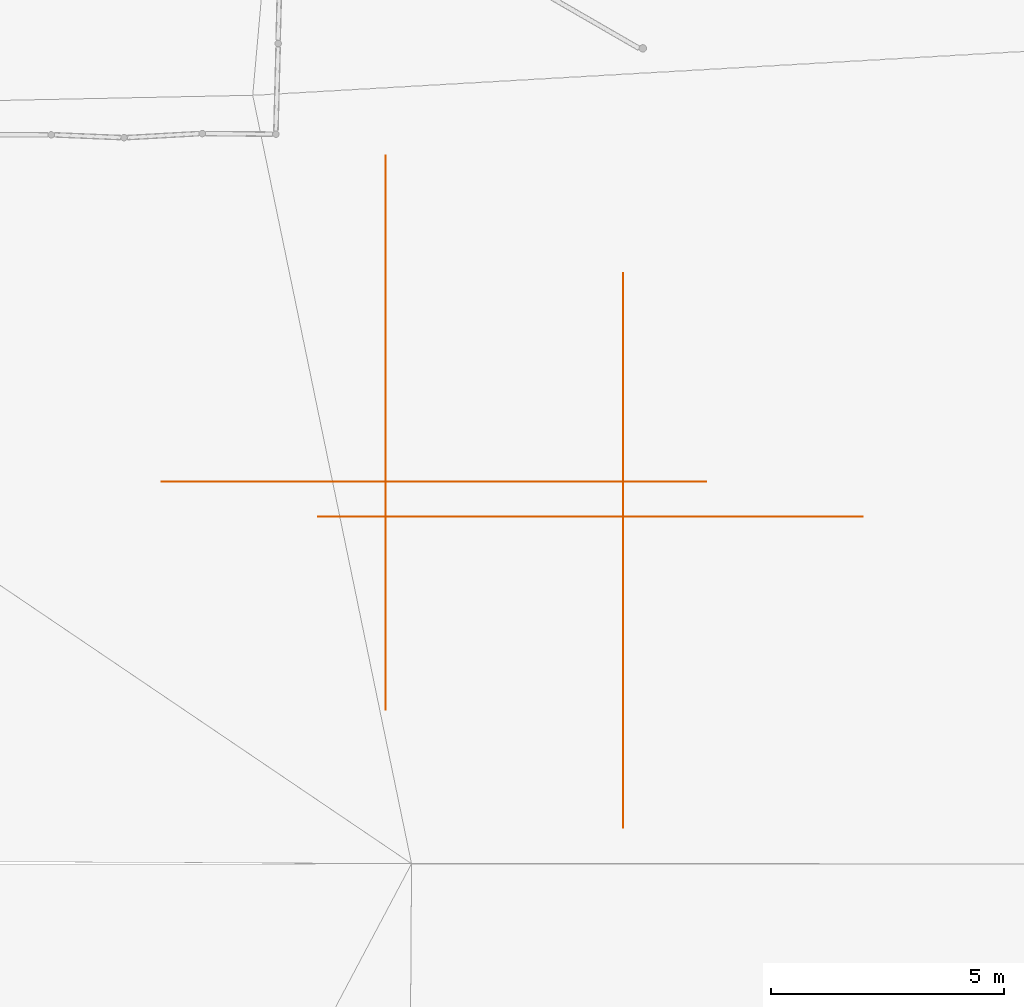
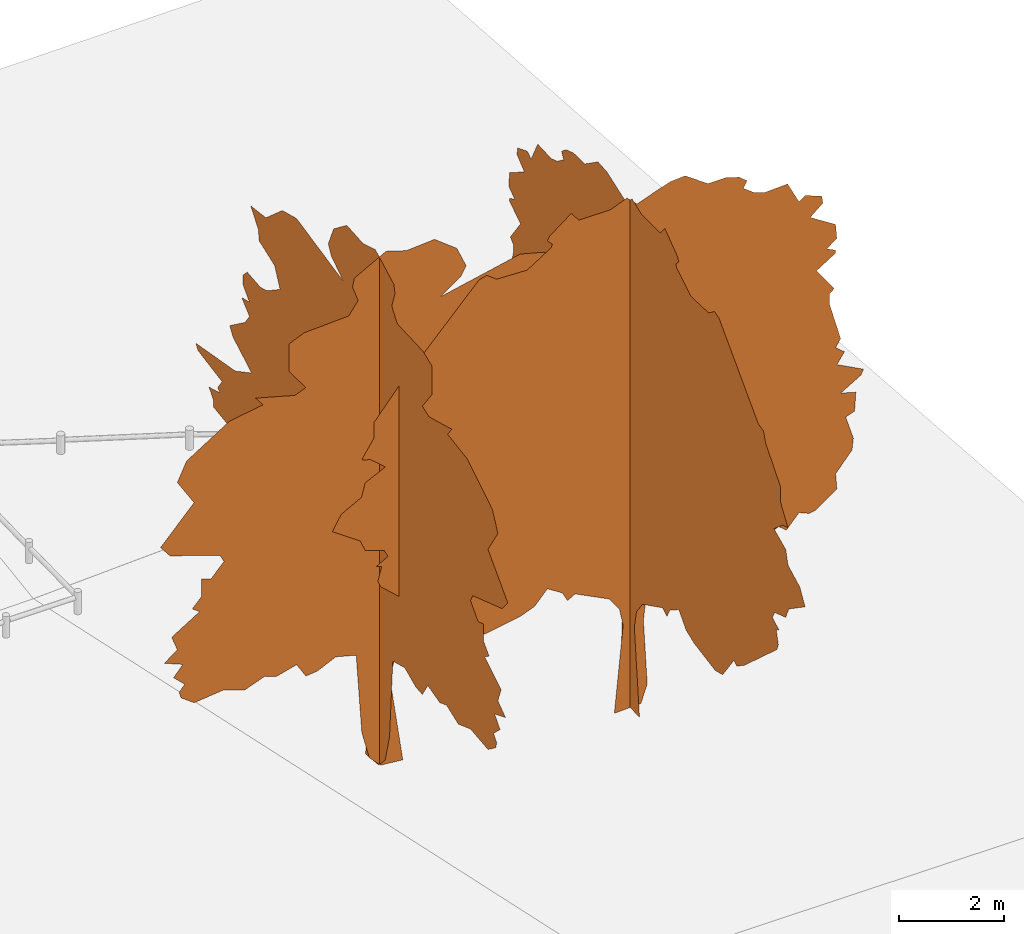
# One storey, part 130 of 133: 2 proxies.
"""IFC2X3 building model written with IfcOpenShell, lengths in centimetres."""

import ifcopenshell
import ifcopenshell.guid

model = None  # the IFC model being written
_history = None  # IfcOwnerHistory: only IFC2X3 demands one
_inside = {}  # id of a spatial element -> (the spatial element, [elements in it])
_under = {}  # id of a project, library or spatial element -> (it, [spatial elements below it])
_declared = {}  # id of a project -> (the project, [libraries it declares])
_typed = {}  # id of a type object -> (the type object, [elements of that type])
_made_of = {}  # id of a material, layer set ... -> (it, [elements and type objects made of it])


def new_model(schema):
    """Start an empty IFC model of exactly this schema.

    Asked for "IFC4X3", IfcOpenShell would pick the latest addendum, in which some entities
    have other attributes; the version numbers below select the first issue.
    IFC2X3 requires an IfcOwnerHistory on every rooted entity: one is made here for all.
    """
    global model, _history
    if schema == "IFC4X3":
        model = ifcopenshell.file(schema_version=(4, 3, 0, 0))
    else:
        model = ifcopenshell.file(schema=schema)
    _inside.clear()
    _under.clear()
    _declared.clear()
    _typed.clear()
    _made_of.clear()
    _history = None
    if model.schema == "IFC2X3":
        org = make("IfcOrganization", Name="unknown")
        user = make(
            "IfcPersonAndOrganization",
            ThePerson=make("IfcPerson", FamilyName="unknown"),
            TheOrganization=org,
        )
        app = make(
            "IfcApplication",
            ApplicationDeveloper=org,
            Version="unknown",
            ApplicationFullName="unknown",
            ApplicationIdentifier="unknown",
        )
        _history = make(
            "IfcOwnerHistory",
            OwningUser=user,
            OwningApplication=app,
            ChangeAction="ADDED",
            CreationDate=0,
        )
    return model


def make(cls, **values):
    """One entity of the class cls with the attributes given. An attribute that is None is left unset."""
    return model.create_entity(
        cls, **{name: value for name, value in values.items() if value is not None}
    )


def entity(cls, *values):
    """Any entity or typed value of the class cls, its attributes in the order of the schema. None: left unset."""
    e = model.create_entity(cls)
    for i, value in enumerate(values):
        if value is not None:
            e[i] = value
    return e


def rooted(cls, **values):
    """An entity with a GlobalId (a new one), such as an element, a storey or a relation."""
    return make(cls, GlobalId=ifcopenshell.guid.new(), OwnerHistory=_history, **values)


def si_unit(unit_type, name, prefix=None):
    """IfcSIUnit, for example si_unit("LENGTHUNIT", "METRE", prefix="MILLI")."""
    return make("IfcSIUnit", UnitType=unit_type, Prefix=prefix, Name=name)


def converted_unit(unit_type, name, factor, base, dimensions=None, offset=None):
    """IfcConversionBasedUnit, such as the inch: factor (a typed value) times the base unit."""
    return make(
        "IfcConversionBasedUnit"
        if offset is None
        else "IfcConversionBasedUnitWithOffset",
        ConversionOffset=offset,
        Dimensions=None
        if dimensions is None
        else entity("IfcDimensionalExponents", *dimensions),
        UnitType=unit_type,
        Name=name,
        ConversionFactor=make(
            "IfcMeasureWithUnit", ValueComponent=factor, UnitComponent=base
        ),
    )


def assignment(units):
    """IfcUnitAssignment: the units of a project."""
    return None if units is None else make("IfcUnitAssignment", Units=units)


def point(xyz):
    """IfcCartesianPoint."""
    return None if xyz is None else make("IfcCartesianPoint", Coordinates=xyz)


def direction(xyz):
    """IfcDirection."""
    return None if xyz is None else make("IfcDirection", DirectionRatios=xyz)


def frame(location, z_axis=None, x_axis=None):
    """IfcAxis2Placement3D, a coordinate frame: its origin and axes. An axis left out is left unset."""
    return make(
        "IfcAxis2Placement3D",
        Location=point(location),
        Axis=direction(z_axis),
        RefDirection=direction(x_axis),
    )


def origin():
    """The frame at (0, 0, 0) with its axes left unset."""
    return frame((0.0, 0.0, 0.0))


def origin_with_axes():
    """The frame at (0, 0, 0) with the z axis (0, 0, 1) and the x axis (1, 0, 0) written out."""
    return frame((0.0, 0.0, 0.0), z_axis=(0.0, 0.0, 1.0), x_axis=(1.0, 0.0, 0.0))


def place(relative_to, where):
    """IfcLocalPlacement: puts the frame where relative to a parent placement (None: the world)."""
    return make(
        "IfcLocalPlacement", PlacementRelTo=relative_to, RelativePlacement=where
    )


def context(
    kind, dimensions, precision=None, world=None, true_north=None, identifier=None
):
    """IfcGeometricRepresentationContext, for example the 3D "Model" context."""
    return make(
        "IfcGeometricRepresentationContext",
        ContextIdentifier=identifier,
        ContextType=kind,
        CoordinateSpaceDimension=dimensions,
        Precision=precision,
        WorldCoordinateSystem=world,
        TrueNorth=true_north,
    )


def subcontext(parent, identifier, kind, view, scale=None):
    """IfcGeometricRepresentationSubContext, for example "Body" below "Model"."""
    return make(
        "IfcGeometricRepresentationSubContext",
        ContextIdentifier=identifier,
        ContextType=kind,
        ParentContext=parent,
        TargetScale=scale,
        TargetView=view,
    )


def project(units=None, contexts=None):
    """IfcProject with its units and contexts."""
    return rooted(
        "IfcProject",
        Name="project",
        RepresentationContexts=contexts,
        UnitsInContext=assignment(units),
    )


def spatial(cls, under=None, at=None, **own):
    """A site, building, storey or space (cls), placed at a placement, below another one or the project."""
    s = rooted(cls, ObjectPlacement=at, **own)
    if under is not None:
        _under.setdefault(under.id(), (under, []))[1].append(s)
    return s


def faces_of(points, faces, orient=None, outer=None):
    """IfcFace entities. A face is a list of loops; a loop is a list of indices into points, from 0.

    orient and outer hold one flag for each loop. By default every Orientation is true, the
    first loop of a face is its IfcFaceOuterBound and the others are IfcFaceBound.
    """
    made = []
    for i, loops in enumerate(faces):
        bounds = []
        for j, loop in enumerate(loops):
            is_outer = j == 0 if outer is None else outer[i][j]
            bounds.append(
                make(
                    "IfcFaceOuterBound" if is_outer else "IfcFaceBound",
                    Bound=make("IfcPolyLoop", Polygon=[points[k] for k in loop]),
                    Orientation=True if orient is None else orient[i][j],
                )
            )
        made.append(make("IfcFace", Bounds=bounds))
    return made


def faceted_brep(points, faces, orient=None, outer=None, voids=None):
    """IfcFacetedBrep: a solid bounded by flat faces; with voids (closed shells), ...WithVoids."""
    shared = [point(p) for p in points]
    hull = make("IfcClosedShell", CfsFaces=faces_of(shared, faces, orient, outer))
    if voids is None:
        return make("IfcFacetedBrep", Outer=hull)
    return make(
        "IfcFacetedBrepWithVoids",
        Outer=hull,
        Voids=[
            make(cls, CfsFaces=faces_of(shared, fs, o, b)) for cls, fs, o, b in voids
        ],
    )


def shape(context_of_items, identifier, shape_type, items):
    """IfcShapeRepresentation: the items that make up one representation, for example the "Body"."""
    return make(
        "IfcShapeRepresentation",
        ContextOfItems=context_of_items,
        RepresentationIdentifier=identifier,
        RepresentationType=shape_type,
        Items=items,
    )


def source(mapping_origin, context_of_items, identifier, shape_type, items):
    """IfcRepresentationMap: a shape defined once, which mapped items show again and again."""
    return make(
        "IfcRepresentationMap",
        MappingOrigin=mapping_origin,
        MappedRepresentation=shape(context_of_items, identifier, shape_type, items),
    )


def transform(
    local_origin,
    x_axis=None,
    y_axis=None,
    z_axis=None,
    scale=None,
    scale2=None,
    scale3=None,
    uniform=True,
):
    """IfcCartesianTransformationOperator3D, or its non-uniform kind. x_axis, y_axis, z_axis: its Axis1, 2, 3."""
    if uniform:
        return make(
            "IfcCartesianTransformationOperator3D",
            Axis1=direction(x_axis),
            Axis2=direction(y_axis),
            LocalOrigin=point(local_origin),
            Scale=scale,
            Axis3=direction(z_axis),
        )
    return make(
        "IfcCartesianTransformationOperator3DnonUniform",
        Axis1=direction(x_axis),
        Axis2=direction(y_axis),
        LocalOrigin=point(local_origin),
        Scale=scale,
        Axis3=direction(z_axis),
        Scale2=scale2,
        Scale3=scale3,
    )


def mapped(mapping_source, mapping_target):
    """IfcMappedItem: shows the shape of a source again, moved by a transform."""
    return make(
        "IfcMappedItem", MappingSource=mapping_source, MappingTarget=mapping_target
    )


def material(Name=None, Category=None):
    """IfcMaterial."""
    return make("IfcMaterial", Name=Name, Category=Category)


def made_of(thing, what):
    """Note that an element or type object is made of a material, layer set ...; save() writes the relation."""
    if what is not None:
        _made_of.setdefault(what.id(), (what, []))[1].append(thing)
    return thing


def element(
    cls,
    number,
    at=None,
    inside=None,
    cuts=None,
    type_object=None,
    material=None,
    context=None,
    identifier="Body",
    shape_type=None,
    held_by="IfcProductDefinitionShape",
    body=None,
    shapes=None,
    **own,
):
    """One element of the class cls, such as IfcWall. Its Tag is "e" and its number.

    at: its placement. inside: the storey or other place that contains it. cuts: it is an
    opening in that element (IfcRelVoidsElement). A single representation is given by context,
    identifier, shape_type and body (its items); several are given by shapes. held_by: the class
    of the entity that holds the representations. save() writes the other relations.
    """
    e = rooted(cls, Tag="e%d" % number, ObjectPlacement=at, **own)
    if body is not None:
        shapes = [shape(context, identifier, shape_type, body)]
    if shapes is not None:
        e.Representation = make(held_by, Representations=shapes)
    if inside is not None:
        _inside.setdefault(inside.id(), (inside, []))[1].append(e)
    if cuts is not None:
        rooted(
            "IfcRelVoidsElement", RelatingBuildingElement=cuts, RelatedOpeningElement=e
        )
    if type_object is not None:
        _typed.setdefault(type_object.id(), (type_object, []))[1].append(e)
    return made_of(e, material)


def aggregate(whole, parts):
    """IfcRelAggregates: a whole, such as a stair, and the parts it consists of."""
    return rooted("IfcRelAggregates", RelatingObject=whole, RelatedObjects=parts)


def save(model, path):
    """Write the relations noted so far, then the file.

    IfcRelAggregates (storeys below a building ...), IfcRelContainedInSpatialStructure (elements
    in a storey), IfcRelDefinesByType, IfcRelAssociatesMaterial and IfcRelDeclares: one each for
    every whole, place, type object, material and project.
    """
    for whole, parts in _under.values():
        aggregate(whole, parts)
    for where, things in _inside.values():
        rooted(
            "IfcRelContainedInSpatialStructure",
            RelatedElements=things,
            RelatingStructure=where,
        )
    for kind, things in _typed.values():
        rooted("IfcRelDefinesByType", RelatedObjects=things, RelatingType=kind)
    for what, things in _made_of.values():
        rooted("IfcRelAssociatesMaterial", RelatedObjects=things, RelatingMaterial=what)
    for by, libraries in _declared.values():
        rooted("IfcRelDeclares", RelatingContext=by, RelatedDefinitions=libraries)
    model.write(path)


model = new_model("IFC2X3")

# Units and contexts
model_context = context("Model", 3, precision=0.0001, world=origin(), true_north=direction((0.225632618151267, 0.974212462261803, 0.0)))
body_context = subcontext(model_context, "Body", "Model", "MODEL_VIEW")
ifc_project = project(units=[si_unit("LENGTHUNIT", "METRE", prefix="CENTI"), si_unit("AREAUNIT", "SQUARE_METRE", prefix="CENTI"), si_unit("VOLUMEUNIT", "CUBIC_METRE", prefix="CENTI"), converted_unit("PLANEANGLEUNIT", "DEGREE", entity("IfcRatioMeasure", 0.0174532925), si_unit("PLANEANGLEUNIT", "RADIAN"), dimensions=[0, 0, 0, 0, 0, 0, 0])], contexts=[model_context])

# Site, building, storey
site_placement = place(None, origin_with_axes())
site = spatial("IfcSite", under=ifc_project, at=site_placement, Name="Default Site", CompositionType="ELEMENT")
building_placement = place(site_placement, origin_with_axes())
building = spatial("IfcBuilding", under=site, at=building_placement, Name="Default Building", CompositionType="ELEMENT")
storey_placement = place(building_placement, frame((0.0, 0.0, -291.400371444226), z_axis=(0.0, 0.0, 1.0), x_axis=(1.0, 0.0, 0.0)))
storey = spatial("IfcBuildingStorey", under=building, at=storey_placement, Name="Rez-de-Jardin", CompositionType="ELEMENT", Elevation=-291.400371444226)

# Proxies
ifc_material_1 = material(Name="<Nuovo Albero...> Prospetto")
shared_shape_1 = source(origin_with_axes(), body_context, "Body", "Brep", [
    faceted_brep([(64.2127156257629, 4.84790916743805e-05, -1109.07230377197), (40.3617024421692, 5.20237960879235e-05, -1190.16571044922), (-59.8125696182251, 5.22323075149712e-05, -1194.93598937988), (-26.4211475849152, 3.49257942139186e-05, -799.009084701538), (-40.7317578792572, 3.13810861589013e-05, -717.915630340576), (-78.8933873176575, 2.86704245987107e-05, -655.90295791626), (-207.688879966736, 2.53342253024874e-05, -579.579734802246), (-236.31010055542, 2.616827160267e-05, -598.660516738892), (-255.390906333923, 2.42916624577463e-05, -555.728721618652), (-312.633347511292, 2.2415049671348e-05, -512.796878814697), (-360.335373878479, 2.51257056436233e-05, -574.809503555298), (-412.807607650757, 2.61682644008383e-05, -598.660516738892), (-546.373271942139, 2.74193332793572e-05, -627.281761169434), (-594.075298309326, 2.67937952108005e-05, -612.971162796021), (-660.858154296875, 2.19980106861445e-05, -503.256464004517), (-665.628433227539, 2.1580985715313e-05, -493.716049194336), (-684.709167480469, 2.22065231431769e-05, -508.026695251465), (-732.411193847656, 2.05384220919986e-05, -469.865036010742), (-942.300128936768, 1.0738340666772e-05, -245.665502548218), (-951.840591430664, 9.48726699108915e-06, -217.044281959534), (-937.529945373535, 6.7766086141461e-06, -155.031633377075), (-956.610774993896, 6.35958305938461e-06, -145.491218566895), (-913.678932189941, 5.10851152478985e-06, -116.86999797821), (-927.98957824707, 3.64892578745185e-06, -83.478581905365), (-999.542617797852, 2.39784958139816e-06, -54.8573613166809), (-1018.62344741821, 1.04214422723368e-07, -2.38512307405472), (-1123.56786727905, -3.64900952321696e-06, 83.4785342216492), (-1090.17648696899, -6.56817898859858e-06, 150.261378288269), (-1013.85316848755, -8.65329819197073e-06, 197.963416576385), (-999.542617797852, -1.13639560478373e-05, 259.976053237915), (-923.219299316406, -1.32405633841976e-05, 302.90789604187), (-980.46178817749, -1.57427122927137e-05, 360.150337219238), (-1009.08298492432, -1.61597371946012e-05, 369.690728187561), (-1009.08298492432, -1.65767619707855e-05, 379.231142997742), (-966.151142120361, -1.99129553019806e-05, 455.554389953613), (-966.151142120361, -2.30406379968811e-05, 527.107429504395), (-870.747089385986, -2.88789768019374e-05, 660.673141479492), (-856.436538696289, -3.09640980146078e-05, 708.37516784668), (-823.045063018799, -3.13811214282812e-05, 717.91558265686), (-570.224285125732, -4.49344048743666e-05, 1027.97880172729), (-541.603088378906, -4.53514263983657e-05, 1037.51916885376), (-503.441476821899, -4.38918412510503e-05, 1004.1277885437), (-388.956594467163, -4.36833252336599e-05, 999.357604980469), (-298.322725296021, -4.66024928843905e-05, 1066.14046096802), (-293.552541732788, -4.72280267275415e-05, 1080.45101165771), (-312.633347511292, -4.82705884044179e-05, 1104.30202484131), (-303.092932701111, -4.9104637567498e-05, 1123.38285446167), (-221.999478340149, -5.22323169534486e-05, 1194.93589401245), (-193.378257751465, -5.0355705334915e-05, 1152.0040512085), (-74.1231799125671, -5.03557004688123e-05, 1152.0040512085), (-12.1105313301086, -5.1606774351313e-05, 1180.62534332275), (26.0510921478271, -4.97301623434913e-05, 1137.6935005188), (150.076365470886, -5.20237904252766e-05, 1190.16571044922), (207.318806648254, -5.22322994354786e-05, 1194.93589401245), (293.182492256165, -4.91046132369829e-05, 1123.38285446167), (364.735531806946, -4.91046103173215e-05, 1123.38285446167), (412.437534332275, -4.82705588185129e-05, 1104.30202484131), (441.058731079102, -4.70194854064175e-05, 1075.68082809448), (426.748180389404, -4.57684137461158e-05, 1047.05963134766), (469.680023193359, -4.41003128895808e-05, 1008.89797210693), (507.84158706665, -4.34747731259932e-05, 994.587326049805), (593.705272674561, -4.36832851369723e-05, 999.357604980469), (636.637115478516, -3.93045242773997e-05, 899.18327331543), (660.488128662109, -4.0138572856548e-05, 918.264102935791), (722.500801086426, -3.88874980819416e-05, 889.642906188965), (727.270984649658, -3.74279101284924e-05, 856.251430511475), (679.568958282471, -3.53427902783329e-05, 808.549404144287), (774.973011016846, -3.2215105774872e-05, 736.996412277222), (779.743194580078, -2.92959342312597e-05, 670.213556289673), (741.581630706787, -2.78363501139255e-05, 636.822128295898), (774.973011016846, -2.70022991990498e-05, 617.741298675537), (774.973011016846, -2.63767630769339e-05, 603.430700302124), (703.419971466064, -2.40831307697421e-05, 550.958442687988), (770.202827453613, -1.92873483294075e-05, 441.2437915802), (751.121997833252, -1.8453299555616e-05, 422.162961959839), (751.121997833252, -1.65766901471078e-05, 379.231142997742), (794.053840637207, -8.65322442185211e-06, 197.963416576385), (774.973011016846, -7.19363952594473e-06, 164.571988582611), (808.364486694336, -5.73405301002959e-06, 131.180572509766), (779.743194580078, -3.64893186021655e-06, 83.4785342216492), (879.917526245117, -9.38269137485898e-07, 21.4658930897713), (870.377063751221, 1.04291501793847e-07, -2.38512307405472), (794.053840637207, 2.39792276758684e-06, -54.8573613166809), (851.296329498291, 3.23197387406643e-06, -73.9381730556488), (846.526050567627, 6.98519327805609e-06, -159.801828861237), (813.134670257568, 7.61072855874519e-06, -174.112439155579), (841.755867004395, 1.24065104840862e-05, -283.827114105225), (836.985683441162, 1.47001444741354e-05, -336.299347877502), (774.973011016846, 1.84533618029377e-05, -422.163009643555), (779.743194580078, 2.15810446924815e-05, -493.716049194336), (698.649787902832, 2.45002127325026e-05, -560.498905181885), (674.798774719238, 2.4708725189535e-05, -565.269136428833), (636.637115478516, 2.38746740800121e-05, -546.188306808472), (588.935089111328, 2.65853300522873e-05, -608.200931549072), (560.313892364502, 2.53342566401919e-05, -579.579734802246), (517.382049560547, 2.63768157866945e-05, -603.43074798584), (483.990573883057, 2.55427648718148e-05, -584.349918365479), (469.680023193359, 2.6793838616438e-05, -612.971162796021), (450.599193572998, 2.70023491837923e-05, -617.741346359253), (407.667350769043, 2.47087142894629e-05, -565.269136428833), (326.573920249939, 2.42916862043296e-05, -555.728721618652), (302.722859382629, 2.17895386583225e-05, -498.486280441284), (221.629428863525, 1.94959001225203e-05, -446.014022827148), (188.238000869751, 2.13725092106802e-05, -488.945865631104), (183.467793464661, 2.34576308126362e-05, -536.647891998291), (73.7531185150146, 2.38746511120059e-05, -546.188306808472), (49.9021053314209, 3.53428221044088e-05, -808.549499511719), (-5.12859173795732e-05, 64.2127156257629, -1109.07230377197), (-5.37880622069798e-05, 40.3617024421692, -1190.16571044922), (-4.96178226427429e-05, -59.8125696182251, -1194.93598937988), (-3.37708929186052e-05, -26.4211475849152, -799.009084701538), (-2.96006490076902e-05, -40.7317578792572, -717.915630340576), (-2.52218917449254e-05, -78.8933873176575, -655.90295791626), (-1.62558697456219e-05, -207.688879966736, -579.579734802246), (-1.58388443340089e-05, -236.31010055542, -598.660516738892), (-1.3128187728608e-05, -255.390906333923, -555.728721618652), (-8.7494315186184e-06, -312.633347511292, -512.796878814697), (-9.37496831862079e-06, -360.335373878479, -574.809503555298), (-8.12389577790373e-06, -412.807607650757, -598.660516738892), (-3.53662930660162e-06, -546.373319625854, -627.281761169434), (-8.25972065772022e-07, -594.075345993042, -612.971162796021), (6.88898013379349e-06, -660.858201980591, -503.256464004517), (7.51451827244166e-06, -665.628433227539, -493.716049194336), (7.72302726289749e-06, -684.709215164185, -508.026695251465), (1.14762474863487e-05, -732.411241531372, -469.865036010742), (3.04508520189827e-05, -942.300128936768, -245.665502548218), (3.21189520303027e-05, -951.840591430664, -217.044281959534), (3.42040729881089e-05, -937.529945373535, -155.031633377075), (3.5455147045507e-05, -956.610774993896, -145.491218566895), (3.48296104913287e-05, -913.678932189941, -116.86999797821), (3.69147336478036e-05, -927.98957824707, -83.478581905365), (4.12934886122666e-05, -999.542617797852, -54.8573613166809), (4.44211722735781e-05, -1018.62344741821, -2.38512307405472), (5.27616567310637e-05, -1123.56786727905, 83.4785342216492), (5.42212444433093e-05, -1090.17648696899, 150.261378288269), (5.29701696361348e-05, -1013.85316848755, 197.963416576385), (5.50552942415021e-05, -999.542617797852, 259.976053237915), (5.35957075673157e-05, -923.219299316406, 302.90789604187), (5.86000019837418e-05, -980.46178817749, 360.150337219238), (6.02680975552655e-05, -1009.08298492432, 369.690728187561), (6.06851223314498e-05, -1009.08298492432, 379.231142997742), (6.21447075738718e-05, -966.151142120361, 455.554389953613), (6.52723902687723e-05, -966.151142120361, 527.107429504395), (6.69404907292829e-05, -870.747089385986, 660.673141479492), (6.8400078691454e-05, -856.436538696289, 708.37516784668), (6.73575161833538e-05, -823.045063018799, 717.91558265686), (6.98596663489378e-05, -570.224285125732, 1027.97880172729), (6.90256172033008e-05, -541.603088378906, 1037.51916885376), (6.58979371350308e-05, -503.441476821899, 1004.1277885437), (6.0685134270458e-05, -388.956594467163, 999.357604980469), (5.96425746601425e-05, -298.322725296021, 1066.14046096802), (6.00595963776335e-05, -293.55251789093, 1080.45101165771), (6.19362065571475e-05, -312.633347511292, 1104.30202484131), (6.23532314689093e-05, -303.092932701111, 1123.38285446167), (6.19362078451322e-05, -221.999478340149, 1194.93589401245), (5.8808524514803e-05, -193.378257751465, 1152.0040512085), (5.35957211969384e-05, -74.1231799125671, 1152.0040512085), (5.21361395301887e-05, -12.1105313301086, 1180.62534332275), (4.85914320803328e-05, 26.0510921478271, 1137.6935005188), (4.54637501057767e-05, 150.076365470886, 1190.16571044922), (4.31701156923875e-05, 207.318806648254, 1194.93589401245), (3.62892133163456e-05, 293.182492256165, 1123.38285446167), (3.31615316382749e-05, 364.735531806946, 1123.38285446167), (3.02423599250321e-05, 412.437582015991, 1104.30202484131), (2.77402158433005e-05, 441.058778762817, 1075.68082809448), (2.71146795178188e-05, 426.748180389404, 1047.05963134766), (2.35699705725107e-05, 469.680023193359, 1008.89797210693), (2.12763358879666e-05, 507.841634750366, 994.587326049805), (1.77316317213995e-05, 593.705320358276, 999.357604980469), (1.14762648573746e-05, 636.637115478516, 899.18327331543), (1.12677517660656e-05, 660.488176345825, 918.264102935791), (7.30602248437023e-06, 722.500801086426, 889.642906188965), (5.63792344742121e-06, 727.270984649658, 856.251430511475), (5.63792276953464e-06, 679.568958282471, 808.549404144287), (-1.66000007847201e-06, 774.973011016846, 736.996412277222), (-4.78768270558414e-06, 779.743194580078, 670.213556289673), (-4.57917398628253e-06, 741.581630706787, 636.822128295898), (-6.87280665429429e-06, 774.973011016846, 617.741298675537), (-7.49834277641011e-06, 774.973011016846, 603.430700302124), (-6.66429632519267e-06, 703.419971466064, 550.958442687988), (-1.43792464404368e-05, 770.202827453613, 441.2437915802), (-1.43792467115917e-05, 751.121997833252, 422.162961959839), (-1.62558561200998e-05, 751.121997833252, 379.231142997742), (-2.60559299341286e-05, 794.053840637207, 197.963416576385), (-2.66814663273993e-05, 774.973011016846, 164.571988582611), (-2.9600638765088e-05, 808.364486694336, 131.180572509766), (-3.04346850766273e-05, 779.743194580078, 83.4785342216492), (-3.7524101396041e-05, 879.917526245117, 21.4658930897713), (-3.81496356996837e-05, 870.377063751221, -2.38512307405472), (-3.71070750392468e-05, 794.053792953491, -54.8573613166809), (-4.04432737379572e-05, 851.296329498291, -73.9381730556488), (-4.39879778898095e-05, 846.526050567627, -159.801828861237), (-4.31539314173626e-05, 813.134670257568, -174.112439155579), (-4.92007840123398e-05, 841.755867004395, -283.827114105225), (-5.12859069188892e-05, 836.985683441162, -336.299347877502), (-5.2328465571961e-05, 774.97296333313, -422.163009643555), (-5.56646595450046e-05, 779.743146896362, -493.716049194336), (-5.50391266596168e-05, 698.649740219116, -560.498905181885), (-5.42050795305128e-05, 674.798727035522, -565.269136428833), (-5.17029314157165e-05, 636.6370677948, -546.188306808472), (-5.23284682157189e-05, 588.935041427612, -608.200931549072), (-4.98263241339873e-05, 560.313844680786, -579.579734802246), (-4.89922751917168e-05, 517.382001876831, -603.43074798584), (-4.66986404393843e-05, 483.990573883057, -584.349918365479), (-4.73241788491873e-05, 469.679975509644, -612.971162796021), (-4.6698640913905e-05, 450.599145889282, -617.741346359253), (-4.25284000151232e-05, 407.667350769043, -565.269136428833), (-3.85666699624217e-05, 326.573920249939, -555.728721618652), (-3.50219607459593e-05, 302.722859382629, -498.486280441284), (-2.91836202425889e-05, 221.629428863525, -446.014022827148), (-2.9600645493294e-05, 188.238000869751, -488.945865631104), (-3.14772549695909e-05, 183.467793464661, -536.647891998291), (-2.70985005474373e-05, 73.7531185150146, -546.188306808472), (-3.75241119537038e-05, 49.9021053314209, -808.549499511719)], [[[0, 1, 2, 3, 4, 5, 6, 7, 8, 9, 10, 11, 12, 13, 14, 15, 16, 17, 18, 19, 20, 21, 22, 23, 24, 25, 26, 27, 28, 29, 30, 31, 32, 33, 34, 35, 36, 37, 38, 39, 40, 41, 42, 43, 44, 45, 46, 47, 48, 49, 50, 51, 52, 53, 54, 55, 56, 57, 58, 59, 60, 61, 62, 63, 64, 65, 66, 67, 68, 69, 70, 71, 72, 73, 74, 75, 76, 77, 78, 79, 80, 81, 82, 83, 84, 85, 86, 87, 88, 89, 90, 91, 92, 93, 94, 95, 96, 97, 98, 99, 100, 101, 102, 103, 104, 105, 106]], [[107, 108, 109, 110, 111, 112, 113, 114, 115, 116, 117, 118, 119, 120, 121, 122, 123, 124, 125, 126, 127, 128, 129, 130, 131, 132, 133, 134, 135, 136, 137, 138, 139, 140, 141, 142, 143, 144, 145, 146, 147, 148, 149, 150, 151, 152, 153, 154, 155, 156, 157, 158, 159, 160, 161, 162, 163, 164, 165, 166, 167, 168, 169, 170, 171, 172, 173, 174, 175, 176, 177, 178, 179, 180, 181, 182, 183, 184, 185, 186, 187, 188, 189, 190, 191, 192, 193, 194, 195, 196, 197, 198, 199, 200, 201, 202, 203, 204, 205, 206, 207, 208, 209, 210, 211, 212, 213]]]),
])
proxy_1_placement = place(storey_placement, frame((2963.22595281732, 2507.47773470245, 113.288034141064), z_axis=(0.0, 0.0, 1.0), x_axis=(1.0, 0.0, 0.0)))
element("IfcBuildingElementProxy", 1, at=proxy_1_placement, inside=storey, material=ifc_material_1, Name="Arbre 1824244", context=body_context, shape_type="MappedRepresentation", body=[
    mapped(shared_shape_1, transform((-70.3830411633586, -4.55400609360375, 598.995762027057), x_axis=(1.0, 0.0, 0.0), y_axis=(0.0, 1.0, 0.0), z_axis=(0.0, 0.0, 1.0), scale=0.585168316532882, scale2=0.595191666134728, scale3=0.502118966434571, uniform=False)),
])
ifc_material_2 = material(Name="<New Tree...> Elevation View")
shared_shape_2 = source(origin_with_axes(), body_context, "Body", "Brep", [
    faceted_brep([(-8.64430218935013, 4.07667606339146e-06, -93.2634711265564), (-16.3289323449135, 3.92399143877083e-06, -89.7704541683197), (-23.3149603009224, 4.1682866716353e-06, -95.3592777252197), (-27.5065779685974, 4.19882354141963e-06, -96.0578799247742), (-30.9995889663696, 3.77130707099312e-06, -86.2774431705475), (-38.6842250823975, 3.9239914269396e-06, -89.7704541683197), (-42.8758382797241, 3.80184393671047e-06, -86.9760453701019), (-50.5604684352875, 4.01560229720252e-06, -91.8662667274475), (-58.2451045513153, 3.8018439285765e-06, -86.9760453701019), (-69.4227457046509, 3.89345453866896e-06, -89.0718519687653), (-74.3129670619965, 3.61862242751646e-06, -82.7844262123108), (-75.0115692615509, 3.43540119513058e-06, -78.5928130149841), (-72.9157626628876, 3.25217970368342e-06, -74.401193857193), (-77.1073758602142, 2.94681072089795e-06, -67.4151659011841), (-73.614364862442, 2.64144174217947e-06, -60.4291379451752), (-80.6003928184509, 2.42768337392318e-06, -55.5389165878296), (-75.7101714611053, 2.15285139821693e-06, -49.2514938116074), (-77.8059780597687, 1.72533479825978e-06, -39.4710540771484), (-67.3269391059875, 1.23674446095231e-06, -28.2934099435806), (-70.1213479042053, 1.08405996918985e-06, -24.8003959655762), (-66.6283369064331, 8.09227862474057e-07, -18.5129702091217), (-66.6283369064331, 2.9010061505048e-07, -6.63672313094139), (-63.1353199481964, 3.81711298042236e-07, -8.73253121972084), (-58.2451045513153, -1.52683793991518e-08, 0.349305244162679), (-59.6423089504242, -2.29026661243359e-07, 5.23952469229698), (-78.5045802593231, -7.17617046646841e-07, 16.4171695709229), (-81.9975972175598, -1.05352296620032e-06, 24.1018012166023), (-69.4227457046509, -2.06124058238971e-06, 47.1556931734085), (-75.7101714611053, -2.82466303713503e-06, 64.6207630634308), (-72.2171604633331, -3.37432725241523e-06, 77.1956145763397), (-56.1492919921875, -4.13774956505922e-06, 94.6606814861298), (-43.5744404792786, -4.2904341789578e-06, 98.1536984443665), (-46.3688552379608, -4.56526602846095e-06, 104.441118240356), (-31.6981911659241, -4.25989730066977e-06, 97.455096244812), (-27.5065779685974, -4.38204478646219e-06, 100.24950504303), (-33.7940037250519, -5.02331962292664e-06, 114.920163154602), (-33.7940037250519, -5.84781620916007e-06, 133.78244638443), (-28.2051801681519, -6.03103743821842e-06, 137.974059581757), (-11.4387109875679, -6.09211117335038e-06, 139.371263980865), (-7.94569700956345, -6.45855415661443e-06, 147.754502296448), (-10.041506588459, -6.91660723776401e-06, 158.233535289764), (-9.34290438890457, -7.16090273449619e-06, 163.822364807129), (2.5333434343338, -7.64949320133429e-06, 175.000011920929), (10.2179743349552, -7.46627144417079e-06, 170.808386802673), (20.6970170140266, -7.52734518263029e-06, 172.205591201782), (29.0802508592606, -7.03875522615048e-06, 161.027956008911), (32.573264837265, -6.42801726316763e-06, 147.055900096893), (30.4774552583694, -6.15318489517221e-06, 140.768468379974), (22.7928251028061, -5.75620504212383e-06, 131.686627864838), (52.8327465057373, -6.24479549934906e-06, 142.864274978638), (61.9145810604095, -6.06157426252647e-06, 138.672661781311), (72.3936200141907, -5.35922567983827e-06, 122.60479927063), (82.1740627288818, -5.26761505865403e-06, 120.508992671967), (77.2838413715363, -4.80956146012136e-06, 110.029947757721), (76.5852391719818, -4.4736553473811e-06, 102.345311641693), (66.8048024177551, -4.19882350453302e-06, 96.0578918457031), (63.3117854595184, -3.64915928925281e-06, 83.4830403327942), (71.6950178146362, -3.22164255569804e-06, 73.702597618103), (75.8866369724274, -3.1300319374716e-06, 71.6067910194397), (84.2698693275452, -3.19110567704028e-06, 73.0039954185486), (87.0642840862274, -2.97734757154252e-06, 68.1137800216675), (87.0642840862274, -2.7025154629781e-06, 61.826354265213), (82.8726649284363, -2.36660961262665e-06, 54.1417241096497), (87.7628862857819, -2.27499873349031e-06, 52.0459115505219), (82.8726649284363, -1.93909288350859e-06, 44.3612813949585), (85.6670737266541, -1.63372390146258e-06, 37.3752534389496), (95.4475164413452, -1.08405974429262e-06, 24.8004034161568), (93.3517098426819, -8.39764573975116e-07, 19.2115813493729), (81.4754605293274, -3.2063730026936e-07, 7.33533352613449), (91.9544994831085, 1.06879295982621e-07, -2.44510602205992), (117.104208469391, 4.42785202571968e-07, -10.1297371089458), (115.707004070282, 5.9546965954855e-07, -13.6227503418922), (100.337743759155, 8.09227950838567e-07, -18.5129702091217), (103.132152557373, 1.11459693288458e-06, -25.4989981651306), (101.734948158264, 1.2062076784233e-06, -27.5948077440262), (108.720970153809, 1.35889217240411e-06, -31.0878217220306), (105.926561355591, 1.60318727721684e-06, -36.6766422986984), (105.926561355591, 1.81694564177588e-06, -41.566863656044), (68.9006090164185, 2.21392534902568e-06, -50.6487011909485), (52.1341443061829, 2.51929432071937e-06, -57.6347291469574), (36.0662788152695, 3.28271663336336e-06, -75.0997960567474), (12.3137831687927, 3.83238083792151e-06, -87.6746475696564), (7.42356330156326, 4.10721294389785e-06, -93.9620733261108), (3.93054932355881, 5.08439388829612e-06, -116.317367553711), (8.82076919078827, 7.64949322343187e-06, -175.0), (0.437535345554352, 7.58841947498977e-06, -173.602795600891), (-3.75408083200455, 7.25251335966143e-06, -165.918159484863), (-6.54849261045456, 6.42801729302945e-06, -147.055888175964), (-3.69882151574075e-06, -8.64430218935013, -93.2634711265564), (-3.21023100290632e-06, -16.3289323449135, -89.7704541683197), (-3.14915725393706e-06, -23.3149603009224, -95.3592777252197), (-2.99647268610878e-06, -27.5065779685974, -96.0578799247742), (-2.41627168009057e-06, -30.9995919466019, -86.2774431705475), (-2.23305004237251e-06, -38.6842250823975, -89.7704541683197), (-1.92768129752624e-06, -42.8758382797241, -86.9760453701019), (-1.80553379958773e-06, -50.5604684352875, -91.8662667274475), (-1.25586927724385e-06, -58.2451045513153, -86.9760453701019), (-8.58889648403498e-07, -69.4227457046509, -89.0718519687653), (-3.70299135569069e-07, -74.3129670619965, -82.7844262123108), (-1.5654101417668e-07, -75.0115692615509, -78.5928130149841), (-6.49301301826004e-08, -72.9157626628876, -74.401193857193), (4.23660122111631e-07, -77.1073758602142, -67.4151659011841), (5.76344755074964e-07, -73.614364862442, -60.4291379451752), (1.09547214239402e-06, -80.6003928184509, -55.5389165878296), (1.15654576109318e-06, -75.7101714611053, -49.2514938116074), (1.67567301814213e-06, -77.8059780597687, -39.4710540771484), (1.70621002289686e-06, -67.3269391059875, -28.2934099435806), (1.9810420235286e-06, -70.1213479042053, -24.8003959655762), (2.10318978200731e-06, -66.6283369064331, -18.5129702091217), (2.62231707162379e-06, -66.6283369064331, -6.63672313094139), (2.37802175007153e-06, -63.1353199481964, -8.73253121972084), (2.56124334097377e-06, -58.2451045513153, 0.349305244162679), (2.83607538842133e-06, -59.6423089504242, 5.23952469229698), (4.14916193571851e-06, -78.5045802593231, 16.4171695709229), (4.63775251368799e-06, -81.9975972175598, 24.1018012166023), (5.09580595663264e-06, -69.4227457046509, 47.1556931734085), (6.13406060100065e-06, -75.7101714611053, 64.6207630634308), (6.5310404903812e-06, -72.2171604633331, 77.1956145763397), (6.59211397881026e-06, -56.1492919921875, 94.6606814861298), (6.19513421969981e-06, -43.5744374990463, 98.1536984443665), (6.59211384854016e-06, -46.3688522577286, 104.441118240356), (5.64547008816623e-06, -31.6981911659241, 97.455096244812), (5.58439620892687e-06, -27.5065749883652, 100.24950504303), (6.50050322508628e-06, -33.7940007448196, 114.920163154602), (7.324999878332e-06, -33.7940007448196, 133.78244638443), (7.26392586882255e-06, -28.2051771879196, 137.974059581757), (6.59211404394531e-06, -11.4387109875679, 139.371263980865), (6.80587255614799e-06, -7.94569700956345, 147.754502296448), (7.35553642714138e-06, -10.041506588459, 158.233535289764), (7.56929506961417e-06, -9.34290438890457, 163.822364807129), (7.53875826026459e-06, 2.5333434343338, 175.000011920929), (7.01963057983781e-06, 10.2179743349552, 170.808386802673), (6.62265078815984e-06, 20.6970170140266, 172.205591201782), (5.76761797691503e-06, 29.0802508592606, 161.027956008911), (5.00419546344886e-06, 32.573264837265, 147.055900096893), (4.8209738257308e-06, 30.4774552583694, 140.768468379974), (4.75989981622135e-06, 22.7928251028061, 131.686627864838), (3.93540355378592e-06, 52.8327465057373, 142.864274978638), (3.35520267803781e-06, 61.9145810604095, 138.672661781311), (2.19480066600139e-06, 72.3936200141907, 122.60479927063), (1.67567327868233e-06, 82.1740627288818, 120.508992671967), (1.43137802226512e-06, 77.2838413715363, 110.029947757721), (1.12600875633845e-06, 76.5852391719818, 102.345311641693), (1.27869338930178e-06, 66.8048024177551, 96.0578918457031), (8.81713760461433e-07, 63.3117854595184, 83.4830403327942), (8.77542422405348e-08, 71.6950178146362, 73.702597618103), (-1.87077888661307e-07, 75.8866369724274, 71.6067910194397), (-4.92446894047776e-07, 84.2698693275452, 73.0039954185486), (-8.28352773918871e-07, 87.0642840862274, 68.1137800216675), (-1.10318490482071e-06, 87.0642840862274, 61.826354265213), (-1.25586927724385e-06, 82.8726649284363, 54.1417241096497), (-1.56123854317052e-06, 87.7628862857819, 52.0459115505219), (-1.68338604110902e-06, 82.8726649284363, 44.3612813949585), (-2.110902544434e-06, 85.6670737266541, 37.3752534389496), (-3.08808350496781e-06, 95.4475164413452, 24.8004034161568), (-3.24076807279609e-06, 93.3517098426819, 19.2115813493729), (-3.24076800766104e-06, 81.4754605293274, 7.33533352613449), (-4.12633801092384e-06, 91.9544994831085, -2.44510602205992), (-5.56157271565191e-06, 117.104208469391, -10.1297371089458), (-5.65318343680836e-06, 115.707004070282, -13.6227503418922), (-5.19512999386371e-06, 100.337743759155, -18.5129702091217), (-5.62264649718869e-06, 103.132152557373, -25.4989981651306), (-5.65318350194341e-06, 101.734948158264, -27.5948077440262), (-6.11123674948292e-06, 108.720970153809, -31.0878217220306), (-6.23338437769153e-06, 105.926561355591, -36.6766422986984), (-6.44714275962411e-06, 105.926561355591, -41.566863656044), (-5.22566660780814e-06, 68.9006090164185, -50.6487011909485), (-4.79815010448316e-06, 52.1341443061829, -57.6347291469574), (-4.85922372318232e-06, 36.0662788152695, -75.0997960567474), (-4.37063334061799e-06, 12.3137831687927, -87.6746475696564), (-4.43170715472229e-06, 7.42356330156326, -93.9620733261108), (-5.25620367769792e-06, 3.93054932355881, -116.317367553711), (-8.03506153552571e-06, 8.82076919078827, -175.0), (-7.60754496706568e-06, 0.437535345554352, -173.602795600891), (-7.08841744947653e-06, -3.75408083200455, -165.918159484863), (-6.1417736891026e-06, -6.54849261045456, -147.055888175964)], [[[0, 1, 2, 3, 4, 5, 6, 7, 8, 9, 10, 11, 12, 13, 14, 15, 16, 17, 18, 19, 20, 21, 22, 23, 24, 25, 26, 27, 28, 29, 30, 31, 32, 33, 34, 35, 36, 37, 38, 39, 40, 41, 42, 43, 44, 45, 46, 47, 48, 49, 50, 51, 52, 53, 54, 55, 56, 57, 58, 59, 60, 61, 62, 63, 64, 65, 66, 67, 68, 69, 70, 71, 72, 73, 74, 75, 76, 77, 78, 79, 80, 81, 82, 83, 84, 85, 86, 87]], [[88, 89, 90, 91, 92, 93, 94, 95, 96, 97, 98, 99, 100, 101, 102, 103, 104, 105, 106, 107, 108, 109, 110, 111, 112, 113, 114, 115, 116, 117, 118, 119, 120, 121, 122, 123, 124, 125, 126, 127, 128, 129, 130, 131, 132, 133, 134, 135, 136, 137, 138, 139, 140, 141, 142, 143, 144, 145, 146, 147, 148, 149, 150, 151, 152, 153, 154, 155, 156, 157, 158, 159, 160, 161, 162, 163, 164, 165, 166, 167, 168, 169, 170, 171, 172, 173, 174, 175]]]),
])
proxy_2_placement = place(storey_placement, frame((2289.93587865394, 2551.23623677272, 113.288034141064), z_axis=(0.0, 0.0, 1.0), x_axis=(1.0, 0.0, 0.0)))
element("IfcBuildingElementProxy", 2, at=proxy_2_placement, inside=storey, material=ifc_material_2, Name="Arbre 1824243", context=body_context, shape_type="MappedRepresentation", body=[
    mapped(shared_shape_2, transform((92.3449445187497, 26.8134963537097, 593.142857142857), x_axis=(1.0, 0.0, 0.0), y_axis=(0.0, 1.0, 0.0), z_axis=(0.0, 0.0, 1.0), scale=5.88832517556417, scale2=5.98918631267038, scale3=3.42857131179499, uniform=False)),
])

save(model, "model.ifc")
